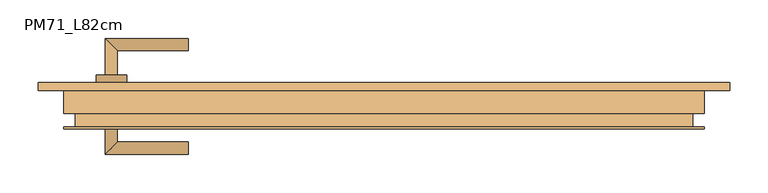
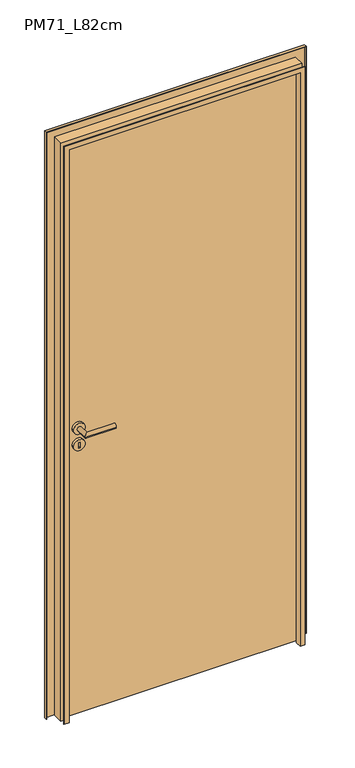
"""IFC4 building model written with IfcOpenShell, lengths in millimetres: door geometry, FDE_PM70_PM71_PM72_PortadeMadeiraSarrafeada_BatenteMetálico : PM71_L82cm."""

from ifc_helpers import new_model, si_unit, point, frame, frame_2d, origin, place, context, project, spatial, polyline, circle_curve, ellipse_curve, trimmed, segment, composite_curve, outline, extrude, faceted_brep, source, transform, mapped, element, save
from ifc_brep_helpers import plane_surface, cylinder_surface, advanced_brep


def pm71_l82cm_d3679378(model_context):
    return source(origin(), model_context, "Body", "SolidModel", [
        extrude(outline(composite_curve([segment(trimmed(circle_curve(frame_2d((989.994466, -355.0)), 20.0), [point((989.994466, -375.0))], [point((989.994466, -335.0))], False, "CARTESIAN"), True, "CONTINUOUS"), segment(trimmed(circle_curve(frame_2d((989.994466, -355.0)), 20.0), [point((989.994466, -335.0))], [point((989.994466, -375.0))], False, "CARTESIAN"), True, "CONTINUOUS")], self_intersect=False), holes=[polyline([(1000.1515067, -352.7045566), (980.1515067, -352.7045566), (980.1515067, -357.7045566), (1000.1515067, -357.7045566), (1000.1515067, -352.7045566)])]), frame((0.0, 65.0, 0.0), z_axis=(0.0, 1.0, 0.0), x_axis=(0.0, 0.0, 1.0)), (0.0, 0.0, 1.0), 10.0),
        advanced_brep(
        [(-347.2045566, 75.0, 1050.0), (-363.2045566, 75.0, 1050.0), (-363.2045566, 123.0, 1050.0), (-347.2045566, 107.0, 1050.0), (-255.2045566, 107.0, 1050.0), (-255.2045566, 123.0, 1050.0)],
        [
            (0, 1, circle_curve(frame((-355.2045566, 75.0, 1050.0), z_axis=(0.0, -1.0, 0.0), x_axis=(-1.0, 0.0, 0.0)), 8.0)),
            (1, 0, circle_curve(frame((-355.2045566, 75.0, 1050.0), z_axis=(0.0, -1.0, 0.0), x_axis=(-1.0, 0.0, 0.0)), 8.0)),
            (1, 2),
            (2, 3, ellipse_curve(frame((-355.2045566, 115.0, 1050.0), z_axis=(-0.707106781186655, -0.7071067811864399, 0.0), x_axis=(0.7071067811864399, -0.7071067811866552, 0.0)), 11.3137085, 8.0)),
            (3, 0),
            (3, 2, ellipse_curve(frame((-355.2045566, 115.0, 1050.0), z_axis=(-0.707106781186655, -0.7071067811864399, 0.0), x_axis=(0.7071067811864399, -0.7071067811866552, 0.0)), 11.3137085, 8.0)),
            (4, 5, circle_curve(frame((-255.2045566, 115.0, 1050.0), z_axis=(1.0, 0.0, 0.0), x_axis=(0.0, 1.0, 0.0)), 8.0)),
            (5, 4, circle_curve(frame((-255.2045566, 115.0, 1050.0), z_axis=(1.0, 0.0, 0.0), x_axis=(0.0, 1.0, 0.0)), 8.0)),
            (2, 5),
            (4, 3),
        ],
        [
            plane_surface(frame((-355.2045566, 75.0, 1050.0), z_axis=(0.0, -1.0, 0.0), x_axis=(0.0, 0.0, 1.0))),
            cylinder_surface(frame((-355.2045566, 75.0, 1050.0), z_axis=(0.0, -1.0, 0.0), x_axis=(-1.0, 0.0, 0.0)), 8.0),
            plane_surface(frame((-255.2045566, 115.0, 1050.0), z_axis=(1.0, 0.0, 0.0), x_axis=(0.0, 0.0, 1.0))),
            cylinder_surface(frame((-355.2045566, 115.0, 1050.0), z_axis=(-1.0, 0.0, 0.0), x_axis=(0.0, 1.0, 0.0)), 8.0),
        ],
        [
            (0, [[1, 2]]),
            (1, [[-2, 3, 4, 5]]),
            (1, [[-1, -5, 6, -3]]),
            (2, [[7, 8]]),
            (3, [[-4, 9, -7, 10]]),
            (3, [[-6, -10, -8, -9]]),
        ],
    ),
        extrude(outline(composite_curve([segment(trimmed(circle_curve(frame_2d((1050.0, -355.0)), 20.0), [point((1050.0, -375.0))], [point((1050.0, -335.0))], False, "CARTESIAN"), True, "CONTINUOUS"), segment(trimmed(circle_curve(frame_2d((1050.0, -355.0)), 20.0), [point((1050.0, -335.0))], [point((1050.0, -375.0))], False, "CARTESIAN"), True, "CONTINUOUS")], self_intersect=False)), frame((0.0, 65.0, 0.0), z_axis=(0.0, 1.0, 0.0), x_axis=(0.0, 0.0, 1.0)), (0.0, 0.0, 1.0), 10.0),
        extrude(outline(composite_curve([segment(trimmed(circle_curve(frame_2d((989.994466, -355.0)), 20.0), [point((989.994466, -375.0))], [point((989.994466, -335.0))], False, "CARTESIAN"), True, "CONTINUOUS"), segment(trimmed(circle_curve(frame_2d((989.994466, -355.0)), 20.0), [point((989.994466, -335.0))], [point((989.994466, -375.0))], False, "CARTESIAN"), True, "CONTINUOUS")], self_intersect=False), holes=[polyline([(1000.1515067, -352.7045566), (980.1515067, -352.7045566), (980.1515067, -357.7045566), (1000.1515067, -357.7045566), (1000.1515067, -352.7045566)])]), frame((0.0, 20.0, 0.0), z_axis=(0.0, 1.0, 0.0), x_axis=(0.0, 0.0, 1.0)), (0.0, 0.0, 1.0), 10.0),
        advanced_brep(
        [(-363.2045566, 20.0, 1050.0), (-347.2045566, 20.0, 1050.0), (-363.2045566, -28.0, 1050.0), (-347.2045566, -12.0, 1050.0), (-255.2045566, -28.0, 1050.0), (-255.2045566, -12.0, 1050.0)],
        [
            (0, 1, circle_curve(frame((-355.2045566, 20.0, 1050.0), z_axis=(0.0, 1.0, 0.0), x_axis=(1.0, 0.0, 0.0)), 8.0)),
            (1, 0, circle_curve(frame((-355.2045566, 20.0, 1050.0), z_axis=(0.0, 1.0, 0.0), x_axis=(1.0, 0.0, 0.0)), 8.0)),
            (0, 2),
            (2, 3, ellipse_curve(frame((-355.2045566, -20.0, 1050.0), z_axis=(-0.7071067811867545, 0.7071067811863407, 0.0), x_axis=(0.7071067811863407, 0.7071067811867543, 0.0)), 11.3137085, 8.0)),
            (3, 1),
            (3, 2, ellipse_curve(frame((-355.2045566, -20.0, 1050.0), z_axis=(-0.7071067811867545, 0.7071067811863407, 0.0), x_axis=(0.7071067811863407, 0.7071067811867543, 0.0)), 11.3137085, 8.0)),
            (4, 5, circle_curve(frame((-255.2045566, -20.0, 1050.0), z_axis=(1.0, 0.0, 0.0), x_axis=(0.0, 1.0, 0.0)), 8.0)),
            (5, 4, circle_curve(frame((-255.2045566, -20.0, 1050.0), z_axis=(1.0, 0.0, 0.0), x_axis=(0.0, 1.0, 0.0)), 8.0)),
            (2, 4),
            (5, 3),
        ],
        [
            plane_surface(frame((-355.2045566, 20.0, 1050.0), z_axis=(0.0, 1.0, 0.0), x_axis=(0.0, 0.0, 1.0))),
            cylinder_surface(frame((-355.2045566, 20.0, 1050.0), z_axis=(0.0, 1.0, 0.0), x_axis=(1.0, 0.0, 0.0)), 8.0),
            plane_surface(frame((-255.2045566, -20.0, 1050.0), z_axis=(1.0, 0.0, 0.0), x_axis=(0.0, 0.0, 1.0))),
            cylinder_surface(frame((-355.2045566, -20.0, 1050.0), z_axis=(-1.0, 0.0, 0.0), x_axis=(0.0, 1.0, 0.0)), 8.0),
        ],
        [
            (0, [[1, 2]]),
            (1, [[-1, 3, 4, 5]]),
            (1, [[-2, -5, 6, -3]]),
            (2, [[7, 8]]),
            (3, [[-4, 9, -8, 10]]),
            (3, [[-6, -10, -7, -9]]),
        ],
    ),
        extrude(outline(composite_curve([segment(trimmed(circle_curve(frame_2d((1050.0, -355.0)), 20.0), [point((1050.0, -375.0))], [point((1050.0, -335.0))], False, "CARTESIAN"), True, "CONTINUOUS"), segment(trimmed(circle_curve(frame_2d((1050.0, -355.0)), 20.0), [point((1050.0, -335.0))], [point((1050.0, -375.0))], False, "CARTESIAN"), True, "CONTINUOUS")], self_intersect=False)), frame((0.0, 20.0, 0.0), z_axis=(0.0, 1.0, 0.0), x_axis=(0.0, 0.0, 1.0)), (0.0, 0.0, 1.0), 10.0),
        faceted_brep([(-450.0, 65.0, 0.0), (-415.0, 65.0, 0.0), (-415.0, 27.0, 0.0), (-400.0, 27.0, 0.0), (-400.0, 5.0, 0.0), (-417.0, 5.0, 0.0), (-417.0, 7.0, 0.0), (-402.0, 7.0, 0.0), (-402.0, 25.0, 0.0), (-417.0, 25.0, 0.0), (-417.0, 63.0, 0.0), (-448.0, 63.0, 0.0), (-448.0, 55.0, 0.0), (-450.0, 55.0, 0.0), (-450.0, 55.0, 2145.0), (-450.0, 65.0, 2145.0), (-448.0, 55.0, 2143.0), (448.0, 55.0, 2143.0), (448.0, 55.0, 0.0), (450.0, 55.0, 0.0), (450.0, 55.0, 2145.0), (-448.0, 63.0, 2143.0), (-417.0, 63.0, 2112.0), (417.0, 63.0, 2112.0), (417.0, 63.0, 0.0), (448.0, 63.0, 0.0), (448.0, 63.0, 2143.0), (-417.0, 25.0, 2112.0), (-402.0, 25.0, 2097.0), (402.0, 25.0, 2097.0), (402.0, 25.0, 0.0), (417.0, 25.0, 0.0), (417.0, 25.0, 2112.0), (-402.0, 7.0, 2097.0), (-417.0, 7.0, 2112.0), (417.0, 7.0, 2112.0), (417.0, 7.0, 0.0), (402.0, 7.0, 0.0), (402.0, 7.0, 2097.0), (-417.0, 5.0, 2112.0), (-400.0, 5.0, 2095.0), (400.0, 5.0, 2095.0), (400.0, 5.0, 0.0), (417.0, 5.0, 0.0), (417.0, 5.0, 2112.0), (-400.0, 27.0, 2095.0), (-415.0, 27.0, 2110.0), (415.0, 27.0, 2110.0), (415.0, 27.0, 0.0), (400.0, 27.0, 0.0), (400.0, 27.0, 2095.0), (-415.0, 65.0, 2110.0), (450.0, 65.0, 2145.0), (450.0, 65.0, 0.0), (415.0, 65.0, 0.0), (415.0, 65.0, 2110.0)], [[[0, 1, 2, 3, 4, 5, 6, 7, 8, 9, 10, 11, 12, 13]], [[13, 14, 15, 0]], [[12, 16, 17, 18, 19, 20, 14, 13]], [[11, 21, 16, 12]], [[10, 22, 23, 24, 25, 26, 21, 11]], [[9, 27, 22, 10]], [[8, 28, 29, 30, 31, 32, 27, 9]], [[7, 33, 28, 8]], [[6, 34, 35, 36, 37, 38, 33, 7]], [[5, 39, 34, 6]], [[4, 40, 41, 42, 43, 44, 39, 5]], [[3, 45, 40, 4]], [[2, 46, 47, 48, 49, 50, 45, 3]], [[1, 51, 46, 2]], [[0, 15, 52, 53, 54, 55, 51, 1]], [[20, 19, 53, 52]], [[53, 19, 18, 25, 24, 31, 30, 37, 36, 43, 42, 49, 48, 54]], [[26, 25, 18, 17]], [[32, 31, 24, 23]], [[38, 37, 30, 29]], [[44, 43, 36, 35]], [[50, 49, 42, 41]], [[55, 54, 48, 47]], [[14, 20, 52, 15]], [[21, 26, 17, 16]], [[27, 32, 23, 22]], [[33, 38, 29, 28]], [[39, 44, 35, 34]], [[45, 50, 41, 40]], [[51, 55, 47, 46]]]),
        extrude(outline(polyline([(410.0, 65.0), (410.0, 30.0), (-410.0, 30.0), (-410.0, 65.0), (410.0, 65.0)])), frame((0.0, 0.0, 5.0), z_axis=(0.0, 0.0, 1.0), x_axis=(1.0, 0.0, 0.0)), (0.0, 0.0, 1.0), 2100.0),
    ])


if __name__ == "__main__":
    model = new_model("IFC4")
    model_context = context("Model", 3, world=origin())
    ifc_project = project(units=[si_unit("LENGTHUNIT", "METRE", prefix="MILLI")], contexts=[model_context])
    site = spatial("IfcSite", under=ifc_project)
    building = spatial("IfcBuilding", under=site)
    placement = place(None, origin())
    pm71_l82cm_shape = pm71_l82cm_d3679378(model_context)
    element("IfcDoor", 1, ObjectType="FDE_PM70_PM71_PM72_PortadeMadeiraSarrafeada_BatenteMetálico : PM71_L82cm", at=placement, inside=building, context=model_context, shape_type="MappedRepresentation", body=[
        mapped(pm71_l82cm_shape, transform((0.0, 0.0, 0.0), x_axis=(1.0, 0.0, 0.0), y_axis=(0.0, 1.0, 0.0), z_axis=(0.0, 0.0, 1.0))),
    ])
    save(model, "model.ifc")
